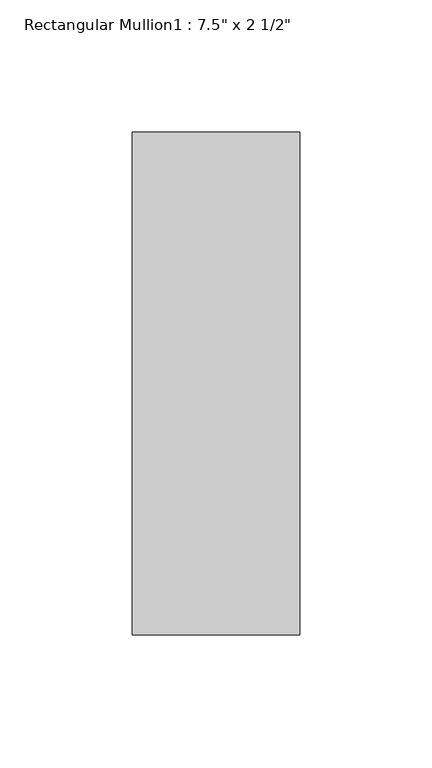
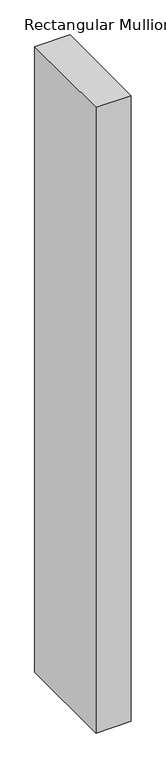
"""IFC4 building model written with IfcOpenShell, lengths in millimetres: member geometry."""

from ifc_helpers import new_model, si_unit, frame, origin, place, context, project, spatial, polyline, outline, extrude, source, transform, mapped, element, save


def member_5aa3df45(model_context):
    return source(origin(), model_context, "Body", "SweptSolid", [
        extrude(outline(polyline([(0.0, 165.1), (0.0, -25.4), (-63.5, -25.4), (-63.5, 165.1), (0.0, 165.1)])), frame((0.0, 0.0, -1190.6250029), z_axis=(0.0, 0.0, 1.0), x_axis=(1.0, 0.0, 0.0)), (0.0, 0.0, 1.0), 1190.6250029),
    ])


if __name__ == "__main__":
    model = new_model("IFC4")
    model_context = context("Model", 3, world=origin())
    ifc_project = project(units=[si_unit("LENGTHUNIT", "METRE", prefix="MILLI")], contexts=[model_context])
    site = spatial("IfcSite", under=ifc_project)
    building = spatial("IfcBuilding", under=site)
    placement = place(None, origin())
    member_shape = member_5aa3df45(model_context)
    element("IfcMember", 1, ObjectType="Rectangular Mullion1 : 7.5\" x 2 1/2\"", at=placement, inside=building, context=model_context, shape_type="MappedRepresentation", body=[
        mapped(member_shape, transform((0.0, 0.0, 0.0), x_axis=(1.0, 0.0, 0.0), y_axis=(0.0, 1.0, 0.0), z_axis=(0.0, 0.0, 1.0))),
    ])
    save(model, "model.ifc")
